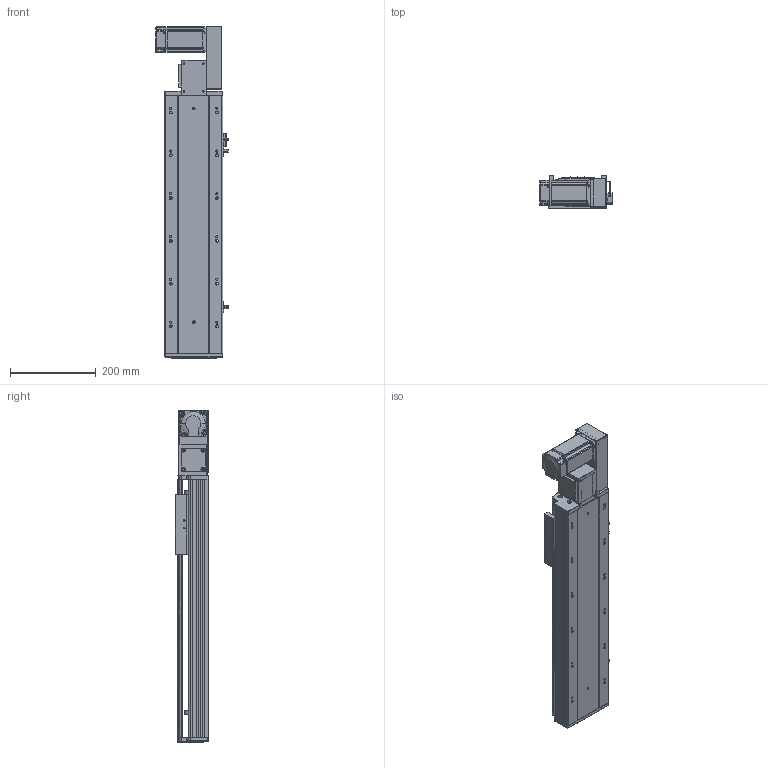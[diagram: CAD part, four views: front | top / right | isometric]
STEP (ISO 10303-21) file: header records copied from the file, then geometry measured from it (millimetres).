
FILE_DESCRIPTION (( 'STEP AP203' ), '1' );
FILE_NAME ('RY140-T-300-RK.SLDASM_350.step', '2021-03-01T06:44:54', ( '盈信电脑' ), ( '东莞市道滘镇水果街19号' ), 'SwSTEP 2.0', 'SolidWorks 2012', '' );
FILE_SCHEMA (( 'CONFIG_CONTROL_DESIGN' ));
Length unit declared in the file: millimetre
Products named in the file (17): RY140-T-300-RK.SLDASM_350; 15; RY120-T主同步轮轴承压盖; RY140-T萇儂假蚾啣; RY120-T蹟翐M4; RY140-T翋肮謫裔啣; RY140-T萇儂欶; 滅袉蝶18-10; RY120-T肮祭湍揤踡輸1; RY140-T翋肮祭謫盓傅釱; RY140綴裔啣; RY120外置感应片(140共用）; 覜茼ん672; RY120-T肮祭湍揤踡輸2; RY140-T-300-DR倰第菁釱_350; RY140肮祭謫臏賑輸; RY140-T-300-DR倰第奻裔啣_350
Assembly tree (22 placements, depth 2):
  RY140-T-300-RK.SLDASM_350
    RY140-T-300-DR倰第菁釱_350
    RY140肮祭謫臏賑輸
    RY140-T-300-DR倰第奻裔啣_350
    RY140綴裔啣
    覜茼ん672  x3
    RY120外置感应片(140共用）
    RY120-T肮祭湍揤踡輸2
    RY120-T肮祭湍揤踡輸1
    RY140-T翋肮祭謫盓傅釱
    滅袉蝶18-10  x2
    RY140-T翋肮謫裔啣
    RY140-T萇儂欶
    RY140-T萇儂假蚾啣
    RY120-T蹟翐M4  x4
    15
    RY120-T主同步轮轴承压盖
Bounding box: 170.7 x 78 x 776.5 mm (x, y, z)
Volume: 2440118.5 mm3; surface area: 890014.7 mm2
Topology: 22 solids, 22 shells, 2567 faces, 7017 edges, 4528 vertices
Faces by surface type: plane 1381, cylinder 908, cone 178, bspline 100
Entity records: 81154 total; most frequent: CARTESIAN_POINT 19915, ORIENTED_EDGE 12602, DIRECTION 11921, EDGE_CURVE 6301, VERTEX_POINT 4127, VECTOR 4093, LINE 4093, AXIS2_PLACEMENT_3D 3914
